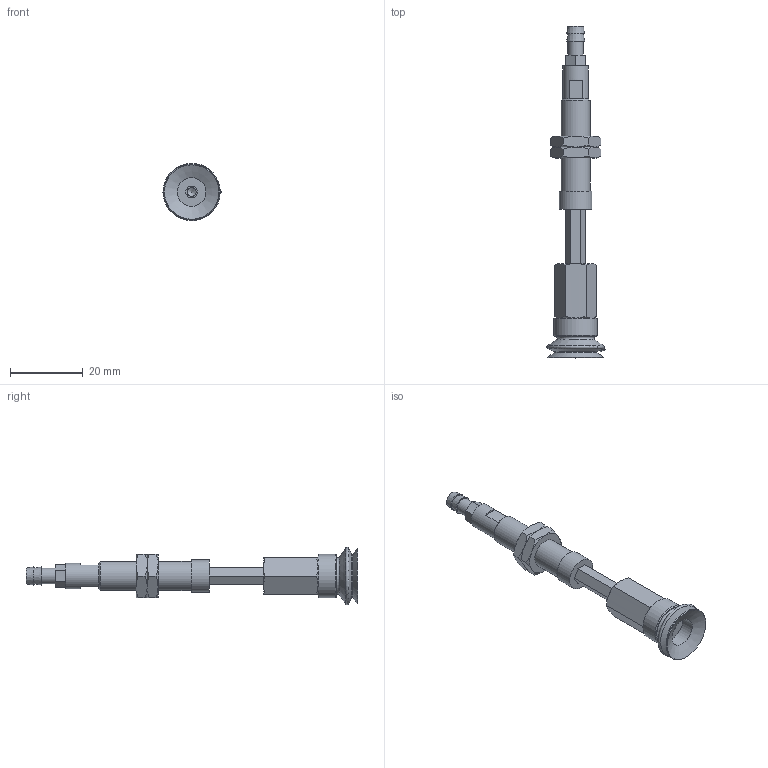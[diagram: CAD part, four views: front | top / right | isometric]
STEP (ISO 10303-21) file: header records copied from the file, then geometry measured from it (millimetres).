
FILE_DESCRIPTION(('STEP AP203'),'1');
FILE_NAME('-T.stp','2025-08-27T06:54:21',(' '),(' '),'Spatial InterOp 3D',' ',' ');
FILE_SCHEMA(('CONFIG_CONTROL_DESIGN'));
Length unit declared in the file: millimetre
Products named in the file (8): BNABPJTH-15-15-※-T; ADAPTER; NAPCTH-10-15-MBODY; Adapter-15-NAPJ; NAPJH-15-15-NUT; NAPJTH-15-15-FBODY; BPJG-15-※; T
Assembly tree (8 placements, depth 2):
  BNABPJTH-15-15-※-T
    ADAPTER
    NAPCTH-10-15-MBODY
    Adapter-15-NAPJ
    NAPJH-15-15-NUT  x2
    NAPJTH-15-15-FBODY
    BPJG-15-※
    T
Bounding box: 15.99 x 91.5 x 15.78 mm (x, y, z)
Volume: 5039.3 mm3; surface area: 5754.8 mm2
Topology: 8 solids, 8 shells, 165 faces, 355 edges, 214 vertices
Faces by surface type: plane 74, cone 56, cylinder 16, torus 9, bspline 6, sphere 4
Full cylindrical faces by diameter (mm): 2.5 x1, 3 x1, 4.134 x2, 4.3 x1, 4.6 x1, 5 x2, 7 x1, 7.188 x2, 7.9 x1, 8 x2, 9 x1, 12 x1
Entity records: 4424 total; most frequent: CARTESIAN_POINT 1193, DIRECTION 592, ORIENTED_EDGE 516, EDGE_CURVE 258, AXIS2_PLACEMENT_3D 245, EDGE_LOOP 199, VERTEX_POINT 178, FACE_OUTER_BOUND 164
